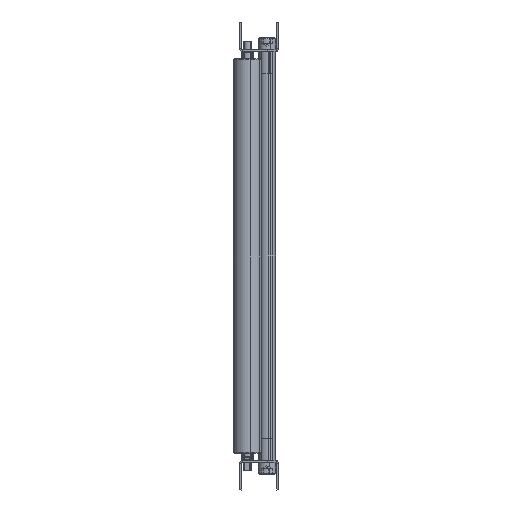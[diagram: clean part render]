
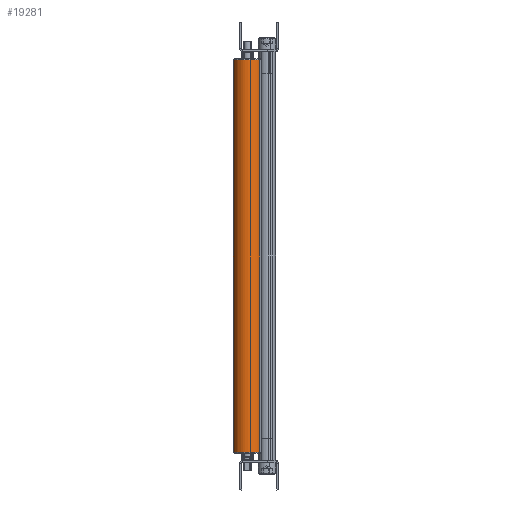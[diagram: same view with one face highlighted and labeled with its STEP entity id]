
A CAD part, left-side view. The second image highlights one B-rep face of the part: STEP entity #19281.
In plain terms, the highlighted cylindrical face has radius 14.3 mm (diameter 28.6 mm), a partial arc.
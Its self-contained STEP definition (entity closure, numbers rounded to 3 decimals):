
#3450 = DIRECTION ( 'NONE',  ( 0.481, 0.877, 0. ) ) ;
#5871 = VERTEX_POINT ( 'NONE', #41272 ) ;
#9834 = CIRCLE ( 'NONE', #44949, 14.3 ) ;
#13720 = DIRECTION ( 'NONE',  ( -0.481, -0.877, 0. ) ) ;
#14707 = EDGE_CURVE ( 'NONE', #43413, #5871, #20210, .T. ) ;
#16040 = LINE ( 'NONE', #22685, #16404 ) ;
#16404 = VECTOR ( 'NONE', #33219, 1000. ) ;
#16889 = CYLINDRICAL_SURFACE ( 'NONE', #33220, 14.3 ) ;
#18527 = CARTESIAN_POINT ( 'NONE',  ( -2027.899, 267.52, 124.241 ) ) ;
#19281 = ADVANCED_FACE ( 'NONE', ( #23725 ), #16889, .T. ) ;
#19297 = DIRECTION ( 'NONE',  ( 0., 0., -1. ) ) ;
#19974 = LINE ( 'NONE', #36707, #38751 ) ;
#20210 = CIRCLE ( 'NONE', #36291, 14.3 ) ;
#20301 = DIRECTION ( 'NONE',  ( -0.481, -0.877, 0. ) ) ;
#20539 = DIRECTION ( 'NONE',  ( 0., 0., -1. ) ) ;
#20626 = EDGE_CURVE ( 'NONE', #43754, #43413, #16040, .T. ) ;
#20721 = EDGE_CURVE ( 'NONE', #20906, #43754, #9834, .T. ) ;
#20906 = VERTEX_POINT ( 'NONE', #18527 ) ;
#22440 = CARTESIAN_POINT ( 'NONE',  ( -2021.024, 280.058, -622.3 ) ) ;
#22685 = CARTESIAN_POINT ( 'NONE',  ( -2014.148, 292.597, -622.3 ) ) ;
#23725 = FACE_OUTER_BOUND ( 'NONE', #30726, .T. ) ;
#27005 = DIRECTION ( 'NONE',  ( 0., 0., 1. ) ) ;
#27917 = ORIENTED_EDGE ( 'NONE', *, *, #39486, .F. ) ;
#30286 = ORIENTED_EDGE ( 'NONE', *, *, #20626, .T. ) ;
#30726 = EDGE_LOOP ( 'NONE', ( #43881, #30286, #37797, #27917 ) ) ;
#31356 = DIRECTION ( 'NONE',  ( 0., 0., -1. ) ) ;
#32886 = CARTESIAN_POINT ( 'NONE',  ( -2014.148, 292.597, -273.759 ) ) ;
#33219 = DIRECTION ( 'NONE',  ( 0., 0., -1. ) ) ;
#33220 = AXIS2_PLACEMENT_3D ( 'NONE', #22440, #20539, #20301 ) ;
#34134 = CARTESIAN_POINT ( 'NONE',  ( -2021.024, 280.058, -273.759 ) ) ;
#34798 = CARTESIAN_POINT ( 'NONE',  ( -2021.024, 280.058, 124.241 ) ) ;
#36291 = AXIS2_PLACEMENT_3D ( 'NONE', #34134, #27005, #3450 ) ;
#36707 = CARTESIAN_POINT ( 'NONE',  ( -2027.899, 267.52, -622.3 ) ) ;
#37797 = ORIENTED_EDGE ( 'NONE', *, *, #14707, .T. ) ;
#38751 = VECTOR ( 'NONE', #19297, 1000. ) ;
#39486 = EDGE_CURVE ( 'NONE', #20906, #5871, #19974, .T. ) ;
#41272 = CARTESIAN_POINT ( 'NONE',  ( -2027.899, 267.52, -273.759 ) ) ;
#42216 = CARTESIAN_POINT ( 'NONE',  ( -2014.148, 292.597, 124.241 ) ) ;
#43413 = VERTEX_POINT ( 'NONE', #32886 ) ;
#43754 = VERTEX_POINT ( 'NONE', #42216 ) ;
#43881 = ORIENTED_EDGE ( 'NONE', *, *, #20721, .T. ) ;
#44949 = AXIS2_PLACEMENT_3D ( 'NONE', #34798, #31356, #13720 ) ;
